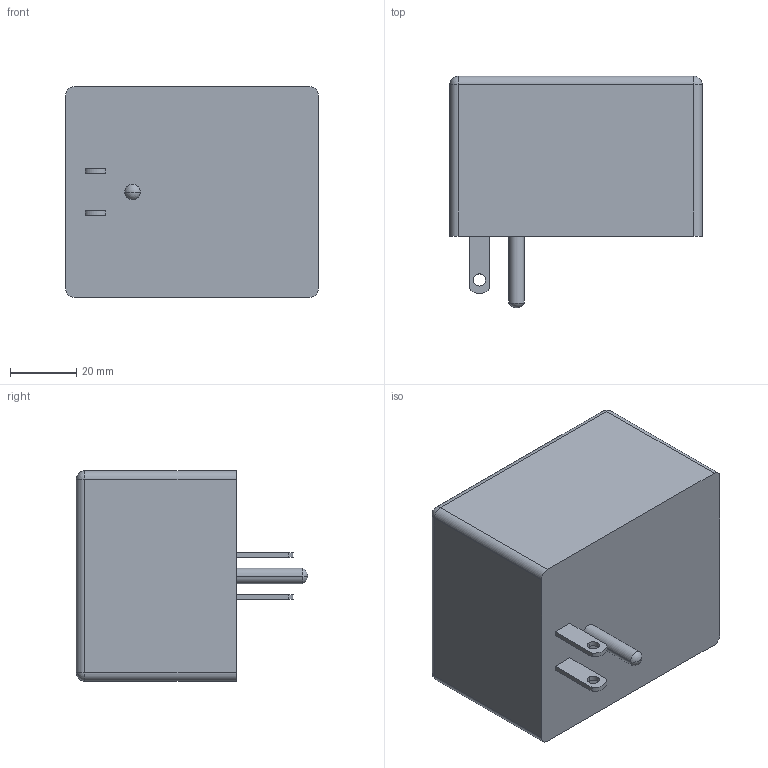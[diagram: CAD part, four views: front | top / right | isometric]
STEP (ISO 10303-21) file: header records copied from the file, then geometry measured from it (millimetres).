
FILE_DESCRIPTION((''),'2;1');
FILE_NAME('CU_POWER_SUPPLY_PS1','2007-08-17T',('jpearson'),(''),'PRO/ENGINEER BY PARAMETRIC TECHNOLOGY CORPORATION, 2006080','PRO/ENGINEER BY PARAMETRIC TECHNOLOGY CORPORATION, 2006080','');
FILE_SCHEMA(('CONFIG_CONTROL_DESIGN'));
Length unit declared in the file: inch
Products named in the file (1): CU_POWER_SUPPLY_PS1
Bounding box: 76.2 x 69.85 x 63.5 mm (x, y, z)
Volume: 233504.8 mm3; surface area: 23444.2 mm2
Topology: 1 solids, 1 shells, 36 faces, 82 edges, 49 vertices
Faces by surface type: cylinder 16, plane 14, sphere 6
Entity records: 1042 total; most frequent: DIRECTION 186, CARTESIAN_POINT 165, ORIENTED_EDGE 160, EDGE_CURVE 80, AXIS2_PLACEMENT_3D 70, VERTEX_POINT 49, VECTOR 46, LINE 46
